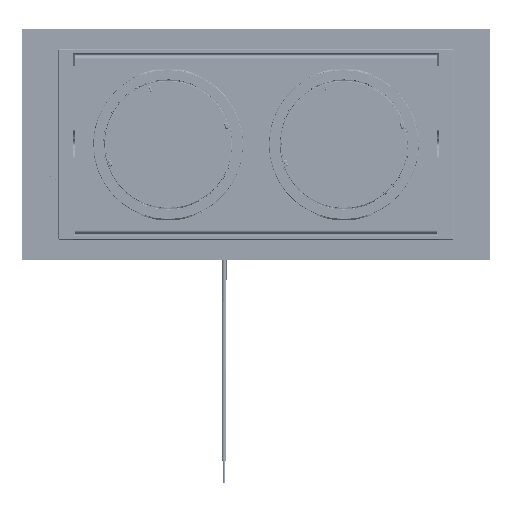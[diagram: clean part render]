
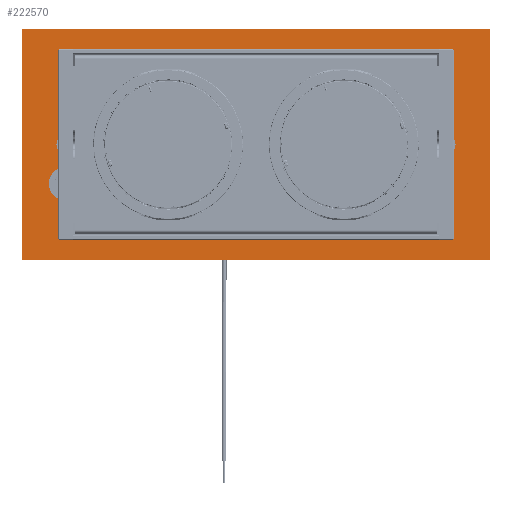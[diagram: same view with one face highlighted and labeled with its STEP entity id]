
A CAD part, front view. The second image highlights one B-rep face of the part: STEP entity #222570.
In plain terms, the highlighted planar face has unit normal (0, -1, 0).
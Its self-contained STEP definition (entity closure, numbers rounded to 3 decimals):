
#5278 = DIRECTION ( 'NONE',  ( 0., 0., 1. ) ) ;
#6130 = CARTESIAN_POINT ( 'NONE',  ( -101.5, -1.219, -50. ) ) ;
#7810 = DIRECTION ( 'NONE',  ( -1., 0., 0. ) ) ;
#13296 = LINE ( 'NONE', #275858, #188059 ) ;
#15049 = CARTESIAN_POINT ( 'NONE',  ( -82.55, -1.219, -17. ) ) ;
#15831 = CARTESIAN_POINT ( 'NONE',  ( 82.55, -1.219, 0. ) ) ;
#16774 = EDGE_CURVE ( 'NONE', #20072, #146695, #198292, .T. ) ;
#18744 = CARTESIAN_POINT ( 'NONE',  ( -101.5, -1.219, 50. ) ) ;
#20072 = VERTEX_POINT ( 'NONE', #29654 ) ;
#25137 = VECTOR ( 'NONE', #5278, 1000. ) ;
#28129 = EDGE_CURVE ( 'NONE', #36791, #264483, #297017, .T. ) ;
#28867 = AXIS2_PLACEMENT_3D ( 'NONE', #298595, #321040, #85784 ) ;
#29654 = CARTESIAN_POINT ( 'NONE',  ( 101.5, -1.219, 50. ) ) ;
#29913 = DIRECTION ( 'NONE',  ( 0., 0., -1. ) ) ;
#32515 = FACE_OUTER_BOUND ( 'NONE', #279462, .T. ) ;
#36791 = VERTEX_POINT ( 'NONE', #324841 ) ;
#37739 = CARTESIAN_POINT ( 'NONE',  ( -101.5, -1.219, 50. ) ) ;
#38327 = EDGE_CURVE ( 'NONE', #234633, #20072, #13296, .T. ) ;
#43732 = CIRCLE ( 'NONE', #142290, 4. ) ;
#51366 = VECTOR ( 'NONE', #29913, 1000. ) ;
#54161 = CARTESIAN_POINT ( 'NONE',  ( 82.55, -1.219, 4. ) ) ;
#58140 = FACE_BOUND ( 'NONE', #133952, .T. ) ;
#65592 = DIRECTION ( 'NONE',  ( 0., 0., 1. ) ) ;
#72358 = CARTESIAN_POINT ( 'NONE',  ( 82.55, -1.219, 0. ) ) ;
#75003 = ORIENTED_EDGE ( 'NONE', *, *, #16774, .F. ) ;
#84364 = DIRECTION ( 'NONE',  ( 0., 1., 0. ) ) ;
#85649 = CARTESIAN_POINT ( 'NONE',  ( 0., -1.219, 0. ) ) ;
#85784 = DIRECTION ( 'NONE',  ( 0., 0., 1. ) ) ;
#87533 = LINE ( 'NONE', #37739, #25137 ) ;
#91531 = VERTEX_POINT ( 'NONE', #195590 ) ;
#103637 = ORIENTED_EDGE ( 'NONE', *, *, #152671, .T. ) ;
#111671 = VECTOR ( 'NONE', #7810, 1000. ) ;
#116278 = EDGE_CURVE ( 'NONE', #91531, #246916, #188915, .T. ) ;
#116461 = ORIENTED_EDGE ( 'NONE', *, *, #253499, .T. ) ;
#122167 = DIRECTION ( 'NONE',  ( 0., 1., 0. ) ) ;
#129079 = EDGE_LOOP ( 'NONE', ( #232037, #116461 ) ) ;
#133952 = EDGE_LOOP ( 'NONE', ( #250797, #292601 ) ) ;
#137164 = DIRECTION ( 'NONE',  ( 0., -1., 0. ) ) ;
#142290 = AXIS2_PLACEMENT_3D ( 'NONE', #161748, #216667, #185833 ) ;
#143744 = CIRCLE ( 'NONE', #28867, 4. ) ;
#146695 = VERTEX_POINT ( 'NONE', #176225 ) ;
#151767 = VERTEX_POINT ( 'NONE', #194325 ) ;
#152671 = EDGE_CURVE ( 'NONE', #264483, #36791, #324467, .T. ) ;
#152994 = CARTESIAN_POINT ( 'NONE',  ( -82.55, -1.219, 4. ) ) ;
#154092 = EDGE_CURVE ( 'NONE', #195130, #241978, #143744, .T. ) ;
#155804 = EDGE_CURVE ( 'NONE', #146695, #151767, #242902, .T. ) ;
#159072 = ORIENTED_EDGE ( 'NONE', *, *, #38327, .F. ) ;
#161748 = CARTESIAN_POINT ( 'NONE',  ( -82.55, -1.219, 0. ) ) ;
#175361 = DIRECTION ( 'NONE',  ( 0., 1., 0. ) ) ;
#176225 = CARTESIAN_POINT ( 'NONE',  ( 101.5, -1.219, -50. ) ) ;
#183750 = AXIS2_PLACEMENT_3D ( 'NONE', #271384, #84364, #319632 ) ;
#185833 = DIRECTION ( 'NONE',  ( 0., 0., 1. ) ) ;
#188059 = VECTOR ( 'NONE', #191855, 1000. ) ;
#188915 = CIRCLE ( 'NONE', #183750, 6.35 ) ;
#190363 = DIRECTION ( 'NONE',  ( 0., 0., -1. ) ) ;
#191855 = DIRECTION ( 'NONE',  ( 1., 0., 0. ) ) ;
#194325 = CARTESIAN_POINT ( 'NONE',  ( -101.5, -1.219, -50. ) ) ;
#195130 = VERTEX_POINT ( 'NONE', #152994 ) ;
#195590 = CARTESIAN_POINT ( 'NONE',  ( -82.55, -1.219, -10.65 ) ) ;
#198292 = LINE ( 'NONE', #199965, #51366 ) ;
#199965 = CARTESIAN_POINT ( 'NONE',  ( 101.5, -1.219, 50. ) ) ;
#207549 = CARTESIAN_POINT ( 'NONE',  ( -82.55, -1.219, -23.35 ) ) ;
#216667 = DIRECTION ( 'NONE',  ( 0., 1., 0. ) ) ;
#222570 = ADVANCED_FACE ( 'NONE', ( #269310, #240165, #58140, #32515 ), #291701, .T. ) ;
#224431 = DIRECTION ( 'NONE',  ( 0., 1., 0. ) ) ;
#226881 = DIRECTION ( 'NONE',  ( 0., 0., 1. ) ) ;
#227631 = EDGE_CURVE ( 'NONE', #241978, #195130, #43732, .T. ) ;
#232037 = ORIENTED_EDGE ( 'NONE', *, *, #116278, .T. ) ;
#234221 = CARTESIAN_POINT ( 'NONE',  ( -82.55, -1.219, -4. ) ) ;
#234633 = VERTEX_POINT ( 'NONE', #18744 ) ;
#235375 = ORIENTED_EDGE ( 'NONE', *, *, #155804, .F. ) ;
#240165 = FACE_BOUND ( 'NONE', #248929, .T. ) ;
#241978 = VERTEX_POINT ( 'NONE', #234221 ) ;
#242102 = AXIS2_PLACEMENT_3D ( 'NONE', #72358, #122167, #65592 ) ;
#242753 = AXIS2_PLACEMENT_3D ( 'NONE', #15831, #175361, #226881 ) ;
#242902 = LINE ( 'NONE', #6130, #111671 ) ;
#246916 = VERTEX_POINT ( 'NONE', #207549 ) ;
#248929 = EDGE_LOOP ( 'NONE', ( #103637, #309741 ) ) ;
#250797 = ORIENTED_EDGE ( 'NONE', *, *, #154092, .T. ) ;
#253499 = EDGE_CURVE ( 'NONE', #246916, #91531, #278729, .T. ) ;
#264483 = VERTEX_POINT ( 'NONE', #54161 ) ;
#269310 = FACE_BOUND ( 'NONE', #129079, .T. ) ;
#271384 = CARTESIAN_POINT ( 'NONE',  ( -82.55, -1.219, -17. ) ) ;
#275858 = CARTESIAN_POINT ( 'NONE',  ( -101.5, -1.219, 50. ) ) ;
#276814 = EDGE_CURVE ( 'NONE', #151767, #234633, #87533, .T. ) ;
#278729 = CIRCLE ( 'NONE', #322693, 6.35 ) ;
#279462 = EDGE_LOOP ( 'NONE', ( #75003, #159072, #311709, #235375 ) ) ;
#291701 = PLANE ( 'NONE',  #305802 ) ;
#292601 = ORIENTED_EDGE ( 'NONE', *, *, #227631, .T. ) ;
#297017 = CIRCLE ( 'NONE', #242102, 4. ) ;
#298595 = CARTESIAN_POINT ( 'NONE',  ( -82.55, -1.219, 0. ) ) ;
#305802 = AXIS2_PLACEMENT_3D ( 'NONE', #85649, #137164, #190363 ) ;
#309741 = ORIENTED_EDGE ( 'NONE', *, *, #28129, .T. ) ;
#311709 = ORIENTED_EDGE ( 'NONE', *, *, #276814, .F. ) ;
#319632 = DIRECTION ( 'NONE',  ( 0., 0., 1. ) ) ;
#321040 = DIRECTION ( 'NONE',  ( 0., 1., 0. ) ) ;
#322693 = AXIS2_PLACEMENT_3D ( 'NONE', #15049, #224431, #329222 ) ;
#324467 = CIRCLE ( 'NONE', #242753, 4. ) ;
#324841 = CARTESIAN_POINT ( 'NONE',  ( 82.55, -1.219, -4. ) ) ;
#329222 = DIRECTION ( 'NONE',  ( 0., 0., 1. ) ) ;
